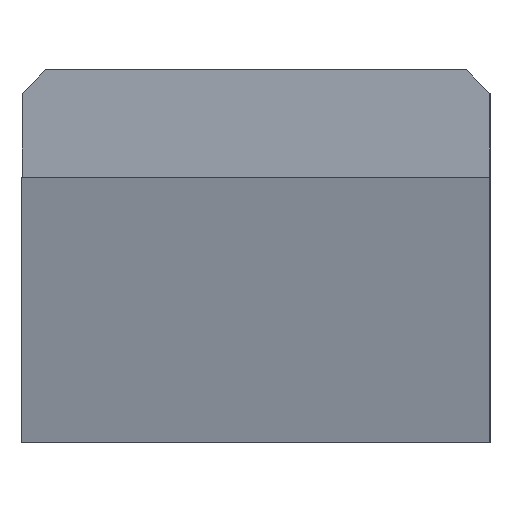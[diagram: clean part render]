
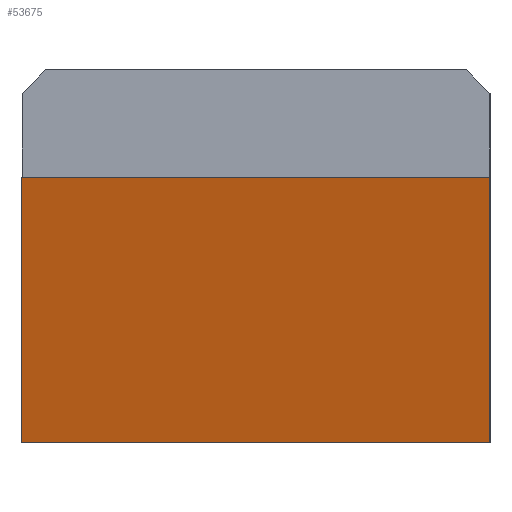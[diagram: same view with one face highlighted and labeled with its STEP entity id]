
A CAD part, left-side view. The second image highlights one B-rep face of the part: STEP entity #53675.
In plain terms, the highlighted planar face has unit normal (-0.943, 0.334, 0).
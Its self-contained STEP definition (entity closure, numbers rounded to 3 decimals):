
#3955 = EDGE_CURVE ( 'NONE', #15684, #6838, #67815, .T. ) ;
#4023 = EDGE_CURVE ( 'NONE', #15684, #8139, #67908, .T. ) ;
#4194 = EDGE_CURVE ( 'NONE', #6838, #8002, #68344, .T. ) ;
#6838 = VERTEX_POINT ( 'NONE', #62981 ) ;
#8002 = VERTEX_POINT ( 'NONE', #63425 ) ;
#8139 = VERTEX_POINT ( 'NONE', #63501 ) ;
#13322 = DIRECTION ( 'NONE',  ( 0.334, 0.943, 0. ) ) ;
#13358 = PLANE ( 'NONE',  #36610 ) ;
#13370 = CARTESIAN_POINT ( 'NONE',  ( 0., 0., 27. ) ) ;
#13372 = DIRECTION ( 'NONE',  ( 0.943, -0.334, 0. ) ) ;
#15684 = VERTEX_POINT ( 'NONE', #21022 ) ;
#18290 = CARTESIAN_POINT ( 'NONE',  ( 0., 0., 27. ) ) ;
#18292 = DIRECTION ( 'NONE',  ( 0., 0., -1. ) ) ;
#21022 = CARTESIAN_POINT ( 'NONE',  ( 17.352, 49., 15.75 ) ) ;
#21586 = EDGE_LOOP ( 'NONE', ( #31863, #31888, #31854, #31896 ) ) ;
#23387 = EDGE_CURVE ( 'NONE', #8139, #8002, #29646, .T. ) ;
#29637 = VECTOR ( 'NONE', #55515, 1000. ) ;
#29646 = LINE ( 'NONE', #55513, #29637 ) ;
#31854 = ORIENTED_EDGE ( 'NONE', *, *, #4023, .T. ) ;
#31863 = ORIENTED_EDGE ( 'NONE', *, *, #4194, .F. ) ;
#31888 = ORIENTED_EDGE ( 'NONE', *, *, #3955, .F. ) ;
#31896 = ORIENTED_EDGE ( 'NONE', *, *, #23387, .T. ) ;
#36610 = AXIS2_PLACEMENT_3D ( 'NONE', #13370, #13372, #13322 ) ;
#53675 = ADVANCED_FACE ( 'NONE', ( #62427 ), #13358, .F. ) ;
#55513 = CARTESIAN_POINT ( 'NONE',  ( 0., 0., -12. ) ) ;
#55515 = DIRECTION ( 'NONE',  ( -0.334, -0.943, 0. ) ) ;
#62427 = FACE_OUTER_BOUND ( 'NONE', #21586, .T. ) ;
#62981 = CARTESIAN_POINT ( 'NONE',  ( 0., 0., 15.75 ) ) ;
#63425 = CARTESIAN_POINT ( 'NONE',  ( 0., 0., -12. ) ) ;
#63501 = CARTESIAN_POINT ( 'NONE',  ( 17.352, 49., -12. ) ) ;
#65731 = CARTESIAN_POINT ( 'NONE',  ( 17.352, 49., 15.75 ) ) ;
#65807 = DIRECTION ( 'NONE',  ( -0.334, -0.943, 0. ) ) ;
#66008 = CARTESIAN_POINT ( 'NONE',  ( 17.352, 49., 27. ) ) ;
#66055 = DIRECTION ( 'NONE',  ( 0., 0., -1. ) ) ;
#67815 = LINE ( 'NONE', #65731, #67817 ) ;
#67817 = VECTOR ( 'NONE', #65807, 1000. ) ;
#67908 = LINE ( 'NONE', #66008, #67922 ) ;
#67922 = VECTOR ( 'NONE', #66055, 1000. ) ;
#68324 = VECTOR ( 'NONE', #18292, 1000. ) ;
#68344 = LINE ( 'NONE', #18290, #68324 ) ;
